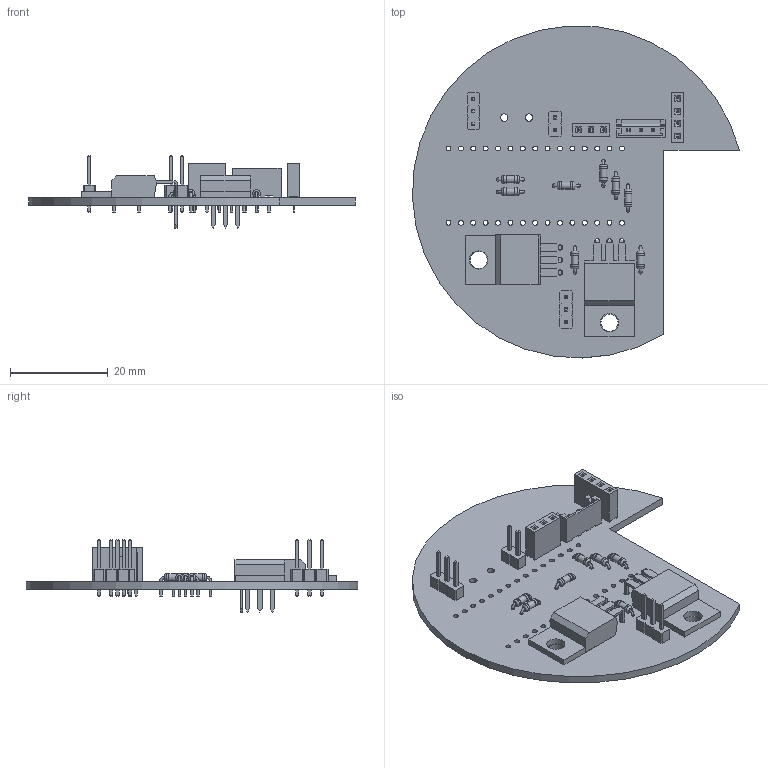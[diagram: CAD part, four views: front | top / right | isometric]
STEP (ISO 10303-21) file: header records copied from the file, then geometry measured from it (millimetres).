
FILE_DESCRIPTION(('KiCad electronic assembly'),'2;1');
FILE_NAME('MichaelBoard.step','2020-08-15T16:01:54',('An Author'),( 'A Company'),'Open CASCADE STEP processor 6.9', 'KiCad to STEP converter','Unknown');
FILE_SCHEMA(('AUTOMOTIVE_DESIGN { 1 0 10303 214 1 1 1 1 }'));
Length unit declared in the file: millimetre
Products named in the file (16): Open CASCADE STEP translator 6.9 1; R_Axial_DIN0204_L3.6mm_D1.6mm_P5.08mm_Horizontal; SOLID; PinSocket_1x03_P2.54mm_Vertical; TO-220-3_Horizontal_TabDown; PinHeader_1x03_P2.54mm_Vertical; JST_EH_B3B-EH-A_1x03_P2.50mm_Vertical; PinSocket_1x04_P2.54mm_Vertical; PinHeader_1x02_P2.54mm_Vertical; COMPOUND
Assembly tree (24 placements, depth 3):
  Open CASCADE STEP translator 6.9 1
    R_Axial_DIN0204_L3.6mm_D1.6mm_P5.08mm_Horizontal  x8
      SOLID
    PinSocket_1x03_P2.54mm_Vertical
      SOLID
    TO-220-3_Horizontal_TabDown  x2
      SOLID
    PinHeader_1x03_P2.54mm_Vertical  x2
      SOLID
    JST_EH_B3B-EH-A_1x03_P2.50mm_Vertical
      SOLID
    PinSocket_1x04_P2.54mm_Vertical
      SOLID
    PinHeader_1x02_P2.54mm_Vertical
      SOLID
    COMPOUND
Bounding box: 67.05 x 68.08 x 14.87 mm (x, y, z)
Volume: 6552.3 mm3; surface area: 9725.9 mm2
Topology: 17 solids, 17 shells, 904 faces, 2197 edges, 1402 vertices
Faces by surface type: plane 749, cylinder 123, torus 32
Full cylindrical faces by diameter (mm): 0.5 x16, 0.7 x16, 0.95 x3, 1 x45, 1.1 x6, 1.44 x8, 1.52 x2, 1.6 x16, 3.5 x2, 3.735 x2
Entity records: 45903 total; most frequent: CARTESIAN_POINT 7512, DIRECTION 6433, LINE 4590, VECTOR 4590, ORIENTED_EDGE 3292, PCURVE 3292, DEFINITIONAL_REPRESENTATION 3292, EDGE_CURVE 1646
